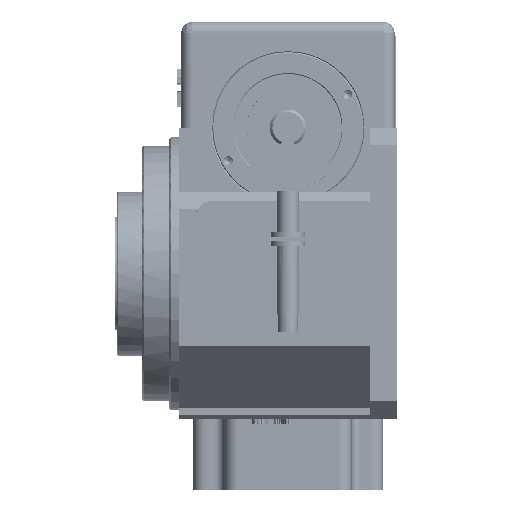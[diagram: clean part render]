
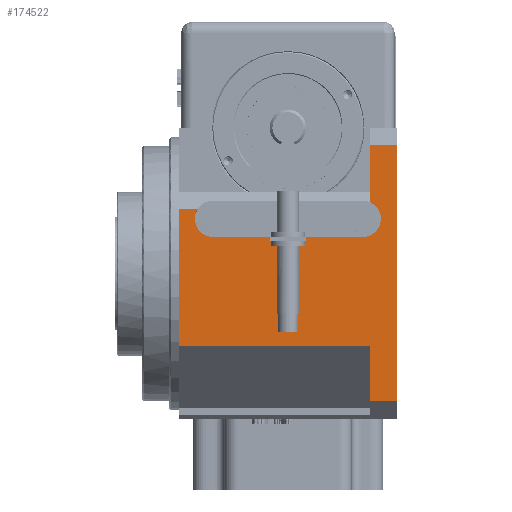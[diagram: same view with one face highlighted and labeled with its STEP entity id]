
A CAD part, left-side view. The second image highlights one B-rep face of the part: STEP entity #174522.
In plain terms, the highlighted planar face has unit normal (-1, 0, 0).
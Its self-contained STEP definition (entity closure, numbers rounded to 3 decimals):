
#1057 = ORIENTED_EDGE ( 'NONE', *, *, #139202, .F. ) ;
#1347 = EDGE_CURVE ( 'NONE', #157248, #139848, #118039, .T. ) ;
#1739 = LINE ( 'NONE', #65370, #75075 ) ;
#4737 = DIRECTION ( 'NONE',  ( 0., -1., 0. ) ) ;
#4908 = EDGE_CURVE ( 'NONE', #82051, #19154, #82388, .T. ) ;
#9185 = DIRECTION ( 'NONE',  ( -1., 0., 0. ) ) ;
#10318 = VECTOR ( 'NONE', #74008, 1000. ) ;
#12996 = DIRECTION ( 'NONE',  ( 1., 0., 0. ) ) ;
#13922 = LINE ( 'NONE', #34216, #126211 ) ;
#13927 = DIRECTION ( 'NONE',  ( 0., 0., 1. ) ) ;
#18556 = LINE ( 'NONE', #55043, #130844 ) ;
#19154 = VERTEX_POINT ( 'NONE', #79707 ) ;
#21430 = CARTESIAN_POINT ( 'NONE',  ( -175., 10., 55. ) ) ;
#21830 = VECTOR ( 'NONE', #123622, 1000. ) ;
#21991 = VECTOR ( 'NONE', #166097, 1000. ) ;
#28107 = VERTEX_POINT ( 'NONE', #99171 ) ;
#34216 = CARTESIAN_POINT ( 'NONE',  ( -175., 60., -60. ) ) ;
#38713 = ORIENTED_EDGE ( 'NONE', *, *, #46248, .F. ) ;
#39662 = EDGE_CURVE ( 'NONE', #51831, #109473, #56795, .T. ) ;
#39708 = DIRECTION ( 'NONE',  ( 0., 0., 1. ) ) ;
#44567 = LINE ( 'NONE', #126597, #117935 ) ;
#46248 = EDGE_CURVE ( 'NONE', #188563, #157248, #97812, .T. ) ;
#49253 = LINE ( 'NONE', #161149, #10318 ) ;
#49440 = ORIENTED_EDGE ( 'NONE', *, *, #82080, .F. ) ;
#50865 = DIRECTION ( 'NONE',  ( 0., 0., -1. ) ) ;
#51831 = VERTEX_POINT ( 'NONE', #150723 ) ;
#53396 = CIRCLE ( 'NONE', #77015, 10. ) ;
#55043 = CARTESIAN_POINT ( 'NONE',  ( -175., 60., 55. ) ) ;
#56795 = LINE ( 'NONE', #173281, #130155 ) ;
#58823 = EDGE_LOOP ( 'NONE', ( #141593, #121007, #101111, #120137, #92736, #49440, #1057, #153093, #142352, #38713, #95707, #58828, #100660, #88871, #150609 ) ) ;
#58828 = ORIENTED_EDGE ( 'NONE', *, *, #164402, .F. ) ;
#60955 = LINE ( 'NONE', #62954, #21991 ) ;
#60980 = CARTESIAN_POINT ( 'NONE',  ( -175., -45., -119.5 ) ) ;
#62605 = EDGE_CURVE ( 'NONE', #139848, #137717, #60955, .T. ) ;
#62954 = CARTESIAN_POINT ( 'NONE',  ( -175., 60., -62. ) ) ;
#64527 = AXIS2_PLACEMENT_3D ( 'NONE', #96954, #9185, #111713 ) ;
#64732 = DIRECTION ( 'NONE',  ( -1., 0., 0. ) ) ;
#64959 = VERTEX_POINT ( 'NONE', #133241 ) ;
#64983 = CARTESIAN_POINT ( 'NONE',  ( -175., -10., -60. ) ) ;
#65370 = CARTESIAN_POINT ( 'NONE',  ( -175., 60., -44.5 ) ) ;
#74008 = DIRECTION ( 'NONE',  ( 0., -1., 0. ) ) ;
#75075 = VECTOR ( 'NONE', #80097, 1000. ) ;
#77015 = AXIS2_PLACEMENT_3D ( 'NONE', #152527, #64732, #167250 ) ;
#78648 = CARTESIAN_POINT ( 'NONE',  ( -175., 60., -119.5 ) ) ;
#79071 = VECTOR ( 'NONE', #50865, 1000. ) ;
#79707 = CARTESIAN_POINT ( 'NONE',  ( -175., -45., -9.5 ) ) ;
#80097 = DIRECTION ( 'NONE',  ( 0., -1., 0. ) ) ;
#82051 = VERTEX_POINT ( 'NONE', #107223 ) ;
#82080 = EDGE_CURVE ( 'NONE', #177959, #28107, #13922, .T. ) ;
#82388 = LINE ( 'NONE', #119144, #116780 ) ;
#84249 = DIRECTION ( 'NONE',  ( 0., 0., 1. ) ) ;
#88871 = ORIENTED_EDGE ( 'NONE', *, *, #96487, .F. ) ;
#89979 = VERTEX_POINT ( 'NONE', #112892 ) ;
#91295 = CARTESIAN_POINT ( 'NONE',  ( -175., -45., -40.835 ) ) ;
#92736 = ORIENTED_EDGE ( 'NONE', *, *, #129235, .F. ) ;
#95707 = ORIENTED_EDGE ( 'NONE', *, *, #97242, .F. ) ;
#96487 = EDGE_CURVE ( 'NONE', #109473, #189893, #44567, .T. ) ;
#96954 = CARTESIAN_POINT ( 'NONE',  ( -175., -41., -50. ) ) ;
#97242 = EDGE_CURVE ( 'NONE', #178083, #188563, #53396, .T. ) ;
#97812 = LINE ( 'NONE', #182649, #132152 ) ;
#98058 = VERTEX_POINT ( 'NONE', #91295 ) ;
#98906 = CARTESIAN_POINT ( 'NONE',  ( -175., 49.352, -44.5 ) ) ;
#98914 = CARTESIAN_POINT ( 'NONE',  ( -175., -10., -62. ) ) ;
#99171 = CARTESIAN_POINT ( 'NONE',  ( -175., -41., -60. ) ) ;
#100660 = ORIENTED_EDGE ( 'NONE', *, *, #121717, .F. ) ;
#100728 = CARTESIAN_POINT ( 'NONE',  ( -175., 60., 55. ) ) ;
#101111 = ORIENTED_EDGE ( 'NONE', *, *, #4908, .T. ) ;
#106269 = DIRECTION ( 'NONE',  ( 0., 1., 0. ) ) ;
#107223 = CARTESIAN_POINT ( 'NONE',  ( -175., -60., -9.5 ) ) ;
#109473 = VERTEX_POINT ( 'NONE', #60980 ) ;
#109537 = CARTESIAN_POINT ( 'NONE',  ( -175., -10., 55. ) ) ;
#110090 = VECTOR ( 'NONE', #39708, 1000. ) ;
#111713 = DIRECTION ( 'NONE',  ( 0., 0., -1. ) ) ;
#111804 = EDGE_CURVE ( 'NONE', #51831, #64959, #49253, .T. ) ;
#112522 = DIRECTION ( 'NONE',  ( 0., 1., 0. ) ) ;
#112892 = CARTESIAN_POINT ( 'NONE',  ( -175., 60., -44.5 ) ) ;
#115450 = DIRECTION ( 'NONE',  ( 0., 0., -1. ) ) ;
#116414 = CARTESIAN_POINT ( 'NONE',  ( -175., -45., 55. ) ) ;
#116780 = VECTOR ( 'NONE', #106269, 1000. ) ;
#117935 = VECTOR ( 'NONE', #112522, 1000. ) ;
#118039 = LINE ( 'NONE', #21430, #79071 ) ;
#119144 = CARTESIAN_POINT ( 'NONE',  ( -175., -60., -9.5 ) ) ;
#120137 = ORIENTED_EDGE ( 'NONE', *, *, #186173, .F. ) ;
#120961 = AXIS2_PLACEMENT_3D ( 'NONE', #100728, #12996, #115450 ) ;
#121007 = ORIENTED_EDGE ( 'NONE', *, *, #155279, .T. ) ;
#121717 = EDGE_CURVE ( 'NONE', #189893, #89979, #18556, .T. ) ;
#123622 = DIRECTION ( 'NONE',  ( 0., 0., 1. ) ) ;
#126211 = VECTOR ( 'NONE', #4737, 1000. ) ;
#126597 = CARTESIAN_POINT ( 'NONE',  ( -175., 60., -119.5 ) ) ;
#129235 = EDGE_CURVE ( 'NONE', #28107, #98058, #144295, .T. ) ;
#130155 = VECTOR ( 'NONE', #84249, 1000. ) ;
#130844 = VECTOR ( 'NONE', #157554, 1000. ) ;
#132152 = VECTOR ( 'NONE', #183893, 1000. ) ;
#133241 = CARTESIAN_POINT ( 'NONE',  ( -175., -60., -150. ) ) ;
#134159 = LINE ( 'NONE', #109537, #21830 ) ;
#137717 = VERTEX_POINT ( 'NONE', #98914 ) ;
#139202 = EDGE_CURVE ( 'NONE', #137717, #177959, #134159, .T. ) ;
#139848 = VERTEX_POINT ( 'NONE', #154231 ) ;
#141593 = ORIENTED_EDGE ( 'NONE', *, *, #111804, .T. ) ;
#141958 = CARTESIAN_POINT ( 'NONE',  ( -175., 41., -60. ) ) ;
#142188 = CARTESIAN_POINT ( 'NONE',  ( -175., -60., -80. ) ) ;
#142346 = CARTESIAN_POINT ( 'NONE',  ( -175., 10., -60. ) ) ;
#142352 = ORIENTED_EDGE ( 'NONE', *, *, #1347, .F. ) ;
#144295 = CIRCLE ( 'NONE', #64527, 10. ) ;
#149083 = LINE ( 'NONE', #142188, #110090 ) ;
#150609 = ORIENTED_EDGE ( 'NONE', *, *, #39662, .F. ) ;
#150723 = CARTESIAN_POINT ( 'NONE',  ( -175., -45., -150. ) ) ;
#152527 = CARTESIAN_POINT ( 'NONE',  ( -175., 41., -50. ) ) ;
#153093 = ORIENTED_EDGE ( 'NONE', *, *, #62605, .F. ) ;
#154231 = CARTESIAN_POINT ( 'NONE',  ( -175., 10., -62. ) ) ;
#155279 = EDGE_CURVE ( 'NONE', #64959, #82051, #149083, .T. ) ;
#157248 = VERTEX_POINT ( 'NONE', #142346 ) ;
#157554 = DIRECTION ( 'NONE',  ( 0., 0., 1. ) ) ;
#158397 = PLANE ( 'NONE',  #120961 ) ;
#161149 = CARTESIAN_POINT ( 'NONE',  ( -175., 60., -150. ) ) ;
#162144 = VECTOR ( 'NONE', #13927, 1000. ) ;
#164402 = EDGE_CURVE ( 'NONE', #89979, #178083, #1739, .T. ) ;
#166097 = DIRECTION ( 'NONE',  ( 0., -1., 0. ) ) ;
#167250 = DIRECTION ( 'NONE',  ( 0., 0., -1. ) ) ;
#168133 = FACE_OUTER_BOUND ( 'NONE', #58823, .T. ) ;
#173281 = CARTESIAN_POINT ( 'NONE',  ( -175., -45., 55. ) ) ;
#174522 = ADVANCED_FACE ( 'NONE', ( #168133 ), #158397, .F. ) ;
#177959 = VERTEX_POINT ( 'NONE', #64983 ) ;
#178083 = VERTEX_POINT ( 'NONE', #98906 ) ;
#180539 = LINE ( 'NONE', #116414, #162144 ) ;
#182649 = CARTESIAN_POINT ( 'NONE',  ( -175., 60., -60. ) ) ;
#183893 = DIRECTION ( 'NONE',  ( 0., -1., 0. ) ) ;
#186173 = EDGE_CURVE ( 'NONE', #98058, #19154, #180539, .T. ) ;
#188563 = VERTEX_POINT ( 'NONE', #141958 ) ;
#189893 = VERTEX_POINT ( 'NONE', #78648 ) ;
